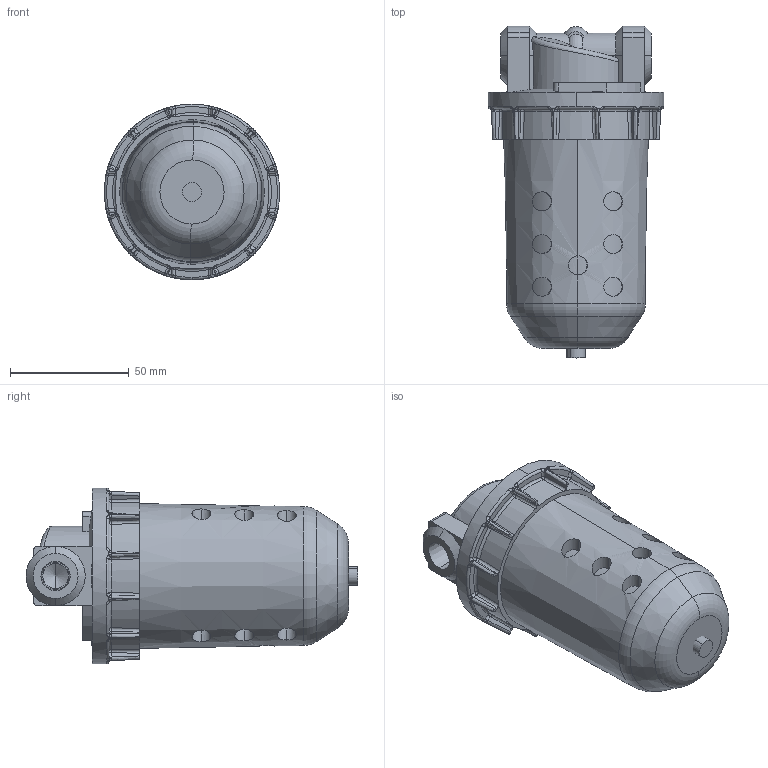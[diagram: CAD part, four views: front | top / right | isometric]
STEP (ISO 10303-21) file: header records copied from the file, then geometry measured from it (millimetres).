
FILE_DESCRIPTION (( 'STEP AP203' ), '1' );
FILE_NAME ('F602-02#YB#.STEP', '2016-01-14T18:02:53', ( '' ), ( '' ), 'SwSTEP 2.0', 'SolidWorks 2014', '' );
FILE_SCHEMA (( 'CONFIG_CONTROL_DESIGN' ));
Length unit declared in the file: millimetre
Products named in the file (4): F602-02#YB#; F602-02-2; F602-02-1; L606-W-06-5
Assembly tree (3 placements, depth 2):
  F602-02#YB#
    F602-02-1
    F602-02-2
    L606-W-06-5
Bounding box: 74 x 139.96 x 74 mm (x, y, z)
Volume: 340340.8 mm3; surface area: 42934 mm2
Topology: 3 solids, 3 shells, 376 faces, 929 edges, 548 vertices
Faces by surface type: bspline 98, cylinder 89, plane 80, cone 47, torus 32, sphere 30
Entity records: 15859 total; most frequent: CARTESIAN_POINT 7711, ORIENTED_EDGE 1802, DIRECTION 1393, EDGE_CURVE 901, AXIS2_PLACEMENT_3D 589, VERTEX_POINT 548, EDGE_LOOP 393, ADVANCED_FACE 376
